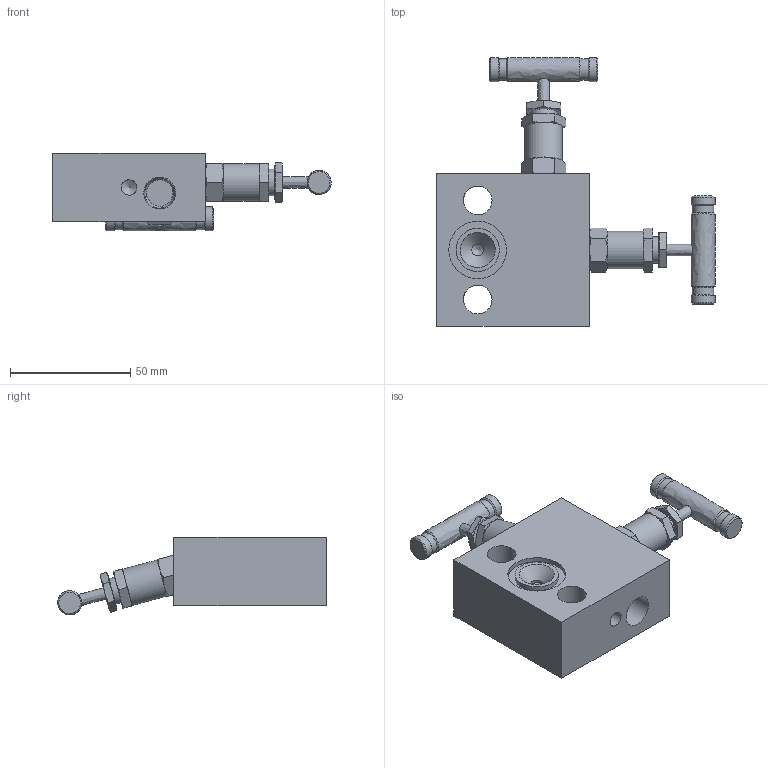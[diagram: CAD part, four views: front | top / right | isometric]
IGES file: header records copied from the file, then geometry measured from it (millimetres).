
Global section: file name: SM2VD-F-8N-S316; native system: Autodesk Inventor 2016; preprocessor: unknown; author: 이승민,,11,0; organization: 20161214.082403; date: 20161216.191646; units: millimetre
Bounding box: 115.9 x 111.89 x 32.34 mm (x, y, z)
Volume: 116275.4 mm3; surface area: 28478.7 mm2
Topology: 3 solids, 3 shells, 190 faces, 478 edges, 316 vertices
Faces by surface type: bspline 190
